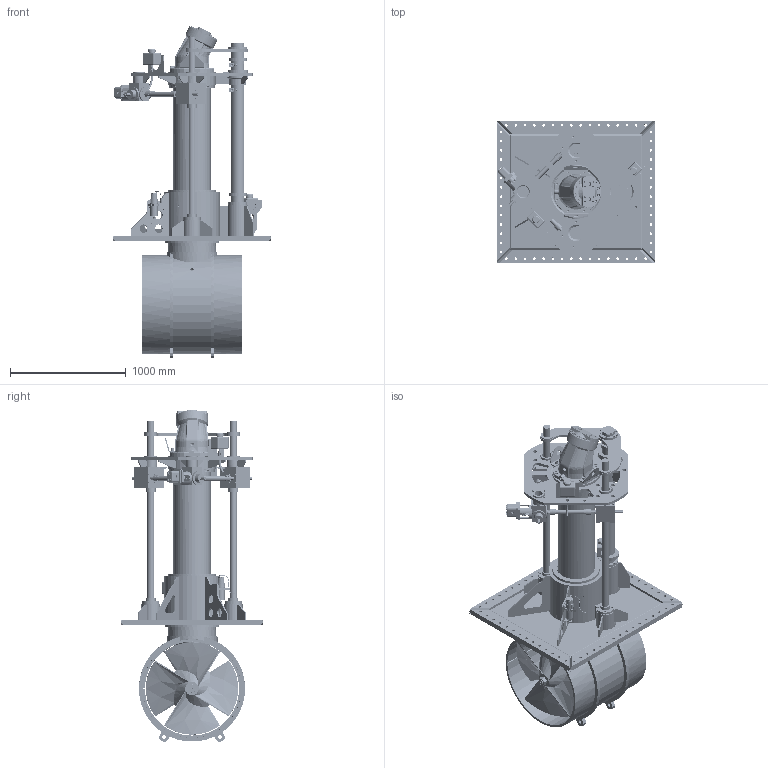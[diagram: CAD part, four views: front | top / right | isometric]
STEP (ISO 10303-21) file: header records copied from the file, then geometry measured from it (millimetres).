
FILE_DESCRIPTION(/* description */ (''),/* implementation_level */ '2;1');
FILE_NAME(/* name */ 'Q:\THRUSTERS\THRUSTER SALES & SUPPORT DOCS\THRUSTER Sales\H-V\H-0800-V\H-0800-V-RETRACTED.stp',/* time_stamp */ '2020-03-17T12:56:42+00:00',/* author */ ('charlotte.richardson'),/* organization */ (''),/* preprocessor_version */ 'ST-DEVELOPER v17',/* originating_system */ 'Autodesk Inventor 2019',/* authorisation */ '');
FILE_SCHEMA (('AUTOMOTIVE_DESIGN { 1 0 10303 214 3 1 1 }'));
Length unit declared in the file: millimetre
Products named in the file (1): H-0800-V_Shrinkwrap_1
Bounding box: 1373.98 x 1233.98 x 2866.06 mm (x, y, z)
Volume: 311714462.9 mm3; surface area: 24669271.1 mm2
Topology: 10 solids, 10 shells, 4906 faces, 13159 edges, 8688 vertices
Faces by surface type: plane 2379, cylinder 1536, cone 409, bspline 387, torus 151, sphere 44
Full cylindrical faces by diameter (mm): 3 x6, 4.4 x4, 6 x6, 6.9 x1, 7.2 x2, 7.275 x1, 8 x5, 9 x5, 9.2 x1, 9.525 x1, 10 x1, 10.11 x16, 10.25 x18, 10.3 x14, 10.5 x57, 11 x19, 11.8 x3, 12 x2, 12.4 x16, 12.5 x24, 13 x8, 13.157 x1, 14 x12, 15.25 x4, 16 x1, 16.5 x4, 17 x48, 17.29 x2, 17.3 x1, 17.5 x20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
Entity records: 189094 total; most frequent: CARTESIAN_POINT 60942, ORIENTED_EDGE 26074, DIRECTION 25029, EDGE_CURVE 13037, AXIS2_PLACEMENT_3D 9290, VERTEX_POINT 8688, LINE 6449, VECTOR 6449
